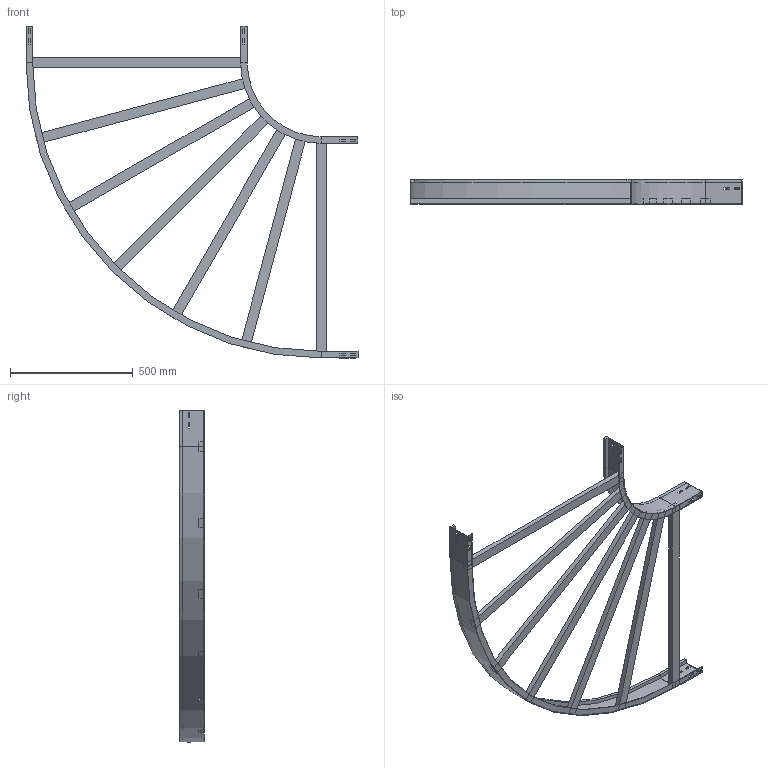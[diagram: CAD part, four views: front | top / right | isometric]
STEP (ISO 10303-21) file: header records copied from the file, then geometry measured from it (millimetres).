
FILE_DESCRIPTION (( 'STEP AP214' ), '1' );
FILE_NAME ('A2_10B3D900.step', '2025-02-21T15:23:15', ( '' ), ( '' ), 'SwSTEP 2.0', 'SolidWorks 2023', '' );
FILE_SCHEMA (( 'AUTOMOTIVE_DESIGN' ));
Length unit declared in the file: millimetre
Products named in the file (4): A2_10B3D900; TRAVERSINO_900; A2_LONGH.ESTERNO 90°_H100_R300+900; A2_LONGH.INTERNO 90°_H100_R300
Assembly tree (9 placements, depth 2):
  A2_10B3D900
    A2_LONGH.INTERNO 90°_H100_R300
    A2_LONGH.ESTERNO 90°_H100_R300+900
    TRAVERSINO_900  x7
Bounding box: 1350 x 100 x 1350 mm (x, y, z)
Volume: 6382030 mm3; surface area: 1614419.6 mm2
Topology: 9 solids, 9 shells, 158 faces, 388 edges, 248 vertices
Faces by surface type: plane 150, cylinder 8
Entity records: 3853 total; most frequent: CARTESIAN_POINT 650, ORIENTED_EDGE 632, DIRECTION 600, EDGE_CURVE 316, VECTOR 300, LINE 300, VERTEX_POINT 200, EDGE_LOOP 154
